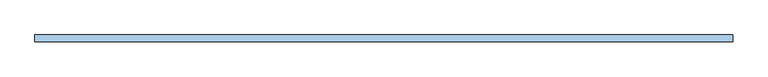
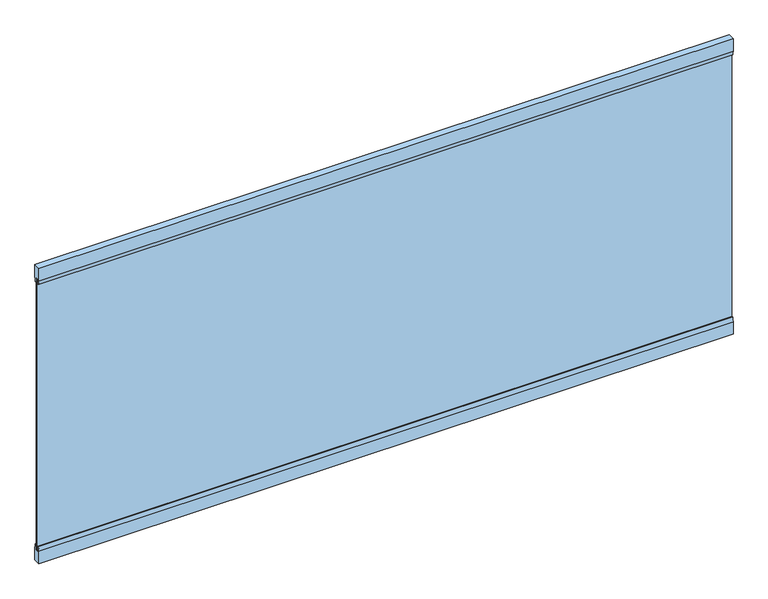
"""IFC4 building model written with IfcOpenShell, lengths in millimetres: window geometry, Herculite-fija : VL-5 - Herculite-fija 4.00 X 1.8."""

from ifc_helpers import new_model, si_unit, point, frame, frame_2d, origin, place, context, project, spatial, polyline, circle_curve, trimmed, segment, composite_curve, outline, extrude, source, transform, mapped, element, save


def window_cce9cbfa(model_context):
    return source(origin(), model_context, "Body", "SweptSolid", [
        extrude(outline(composite_curve([segment(polyline([(-7.5, 2500.0), (-15.0, 2500.0)]), True, "CONTINUOUS"), segment(trimmed(circle_curve(frame_2d((45.0, 2525.0)), 65.0), [point((-15.0, 2500.0))], [point((-20.0, 2525.0))], False, "CARTESIAN"), True, "CONTINUOUS"), segment(polyline([(-20.0, 2525.0), (-20.0, 2600.0), (20.0, 2600.0), (20.0, 2525.0)]), True, "CONTINUOUS"), segment(trimmed(circle_curve(frame_2d((-45.0, 2525.0)), 65.0), [point((20.0, 2525.0))], [point((15.0, 2500.0))], False, "CARTESIAN"), True, "CONTINUOUS"), segment(polyline([(15.0, 2500.0), (7.5, 2500.0), (7.5, 2530.0), (-7.5, 2530.0), (-7.5, 2500.0)]), True, "CONTINUOUS")], self_intersect=False)), frame((-2000.0, 0.0, 0.0), z_axis=(1.0, 0.0, 0.0), x_axis=(0.0, 1.0, 0.0)), (0.0, 0.0, 1.0), 4000.0),
        extrude(outline(polyline([(-2000.0, -5.5), (-2000.0, 5.5), (2000.0, 5.5), (2000.0, -5.5), (-2000.0, -5.5)])), frame((0.0, 0.0, 872.0), z_axis=(0.0, 0.0, 1.0), x_axis=(1.0, 0.0, 0.0)), (0.0, 0.0, 1.0), 1656.0),
        extrude(outline(composite_curve([segment(polyline([(-7.5, 900.0), (-7.5, 870.0), (7.5, 870.0), (7.5, 900.0), (15.0, 900.0)]), True, "CONTINUOUS"), segment(trimmed(circle_curve(frame_2d((-45.0, 875.0)), 65.0), [point((15.0, 900.0))], [point((20.0, 875.0))], False, "CARTESIAN"), True, "CONTINUOUS"), segment(polyline([(20.0, 875.0), (20.0, 800.0), (-20.0, 800.0), (-20.0, 875.0)]), True, "CONTINUOUS"), segment(trimmed(circle_curve(frame_2d((45.0, 875.0)), 65.0), [point((-20.0, 875.0))], [point((-15.0, 900.0))], False, "CARTESIAN"), True, "CONTINUOUS"), segment(polyline([(-15.0, 900.0), (-7.5, 900.0)]), True, "CONTINUOUS")], self_intersect=False)), frame((-2000.0, 0.0, 0.0), z_axis=(1.0, 0.0, 0.0), x_axis=(0.0, 1.0, 0.0)), (0.0, 0.0, 1.0), 4000.0),
    ])


if __name__ == "__main__":
    model = new_model("IFC4")
    model_context = context("Model", 3, world=origin())
    ifc_project = project(units=[si_unit("LENGTHUNIT", "METRE", prefix="MILLI")], contexts=[model_context])
    site = spatial("IfcSite", under=ifc_project)
    building = spatial("IfcBuilding", under=site)
    placement = place(None, origin())
    window_shape = window_cce9cbfa(model_context)
    element("IfcWindow", 1, ObjectType="Herculite-fija : VL-5 - Herculite-fija 4.00 X 1.8", at=placement, inside=building, context=model_context, shape_type="MappedRepresentation", body=[
        mapped(window_shape, transform((0.0, 0.0, 0.0), x_axis=(1.0, 0.0, 0.0), y_axis=(0.0, 1.0, 0.0), z_axis=(0.0, 0.0, 1.0))),
    ])
    save(model, "model.ifc")
